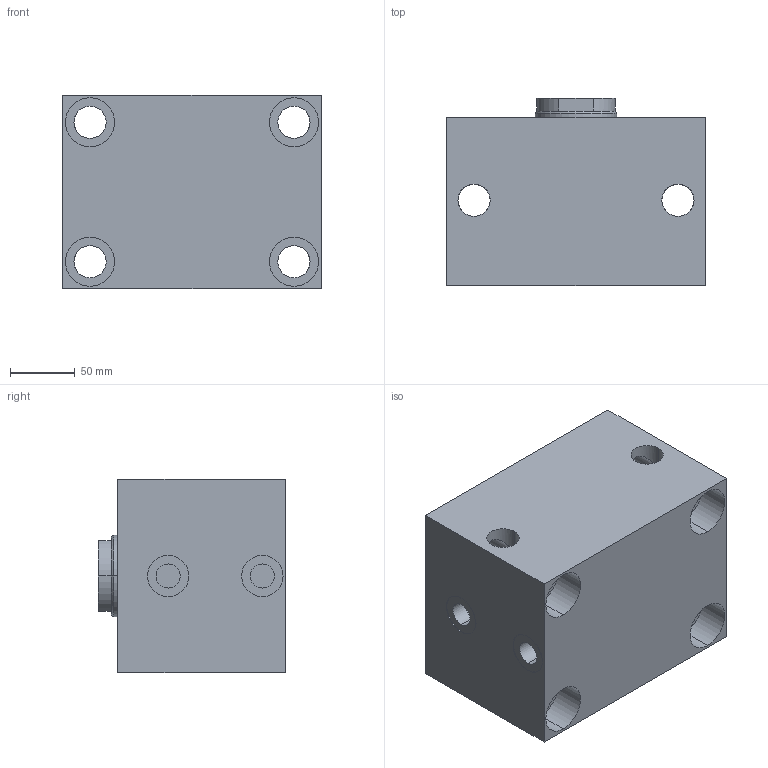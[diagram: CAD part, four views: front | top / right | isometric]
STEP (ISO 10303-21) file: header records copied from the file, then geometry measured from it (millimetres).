
FILE_DESCRIPTION (( 'STEP AP203' ), '1' );
FILE_NAME ('GERMA_Blockzylinder_600-100-040.STEP', '2015-10-09T13:47:48', ( '' ), ( '' ), 'SwSTEP 2.0', 'SolidWorks 2015', '' );
FILE_SCHEMA (( 'CONFIG_CONTROL_DESIGN' ));
Length unit declared in the file: millimetre
Products named in the file (3): GERMA_Blockzylinder_600-100-040; GH-600-100_GH-600-100-040; Kolben 60x-100_Kolben DU.100-Hub40-IG
Assembly tree (2 placements, depth 2):
  GERMA_Blockzylinder_600-100-040
    GH-600-100_GH-600-100-040
    Kolben 60x-100_Kolben DU.100-Hub40-IG
Bounding box: 200 x 145 x 150 mm (x, y, z)
Volume: 3169895.9 mm3; surface area: 301393.8 mm2
Topology: 2 solids, 2 shells, 117 faces, 268 edges, 162 vertices
Faces by surface type: cylinder 73, plane 30, cone 14
Entity records: 3602 total; most frequent: CARTESIAN_POINT 642, DIRECTION 599, ORIENTED_EDGE 524, EDGE_CURVE 262, AXIS2_PLACEMENT_3D 247, VERTEX_POINT 162, EDGE_LOOP 150, CIRCLE 125
